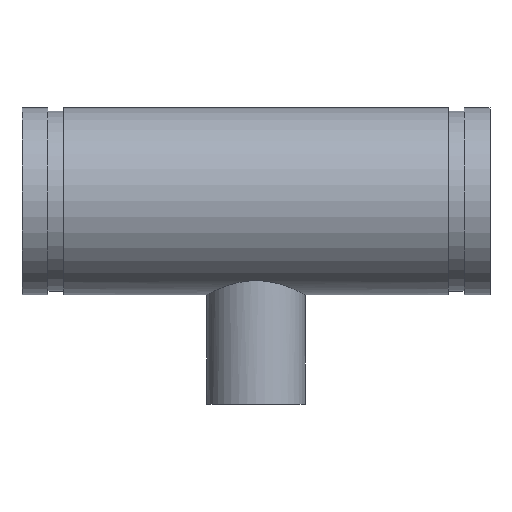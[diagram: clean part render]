
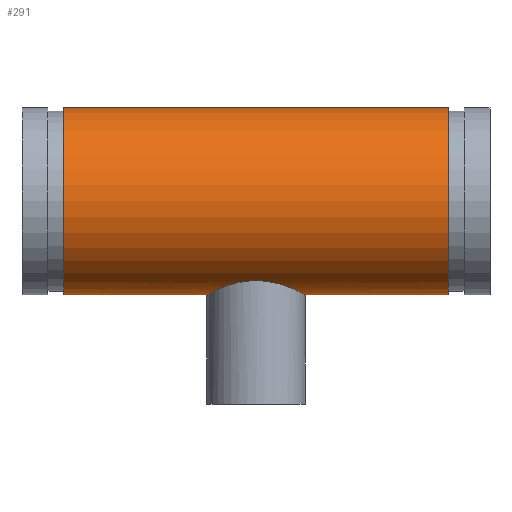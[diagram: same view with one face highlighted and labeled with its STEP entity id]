
A CAD part, top view. The second image highlights one B-rep face of the part: STEP entity #291.
In plain terms, the highlighted cylindrical face has radius 57.15 mm (diameter 114.3 mm), a full revolution.
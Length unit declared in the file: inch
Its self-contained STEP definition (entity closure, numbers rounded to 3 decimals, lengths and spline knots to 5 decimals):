
#45=B_SPLINE_CURVE_WITH_KNOTS('',3,(#511,#512,#513,#514,#515,#516,#517,
#518,#519,#520,#521,#522,#523,#524,#525,#526,#527,#528,#529,#530,#531,#532,
#533,#534,#535,#536,#537,#538,#539,#540,#541,#542,#543,#544,#545,#546,#547,
#548,#549,#550,#551,#552,#553,#554,#555,#556,#557,#558,#559,#560),
 .UNSPECIFIED.,.F.,.F.,(4,2,2,2,2,2,2,2,2,2,2,2,2,2,2,2,2,2,2,2,2,2,2,2,
4),(0.,0.58229,1.16457,1.74686,2.32915,
2.9094,3.48965,4.0699,4.65015,5.2304,
5.81064,6.39089,6.97114,7.55343,8.13572,
8.718,9.30029,9.88258,10.46486,11.04715,
11.62944,12.20969,12.78994,13.37019,13.95044),
 .UNSPECIFIED.);
#46=B_SPLINE_CURVE_WITH_KNOTS('',3,(#561,#562,#563,#564,#565,#566,#567,
#568,#569,#570,#571,#572,#573,#574,#575,#576,#577,#578),.UNSPECIFIED.,.F.,
 .F.,(4,2,2,2,2,2,2,2,4),(13.95044,14.53069,15.11094,
15.69119,16.27144,16.85372,17.43601,18.01829,
18.60058),.UNSPECIFIED.);
#51=LINE('',#508,#59);
#59=VECTOR('',#410,2.25);
#67=CYLINDRICAL_SURFACE('',#338,2.25);
#77=FACE_BOUND('',#108,.T.);
#88=FACE_OUTER_BOUND('',#107,.T.);
#107=EDGE_LOOP('',(#221,#222,#223,#224));
#108=EDGE_LOOP('',(#225,#226));
#121=CIRCLE('',#321,2.25);
#132=CIRCLE('',#337,2.25);
#141=VERTEX_POINT('',#476);
#152=VERTEX_POINT('',#505);
#153=VERTEX_POINT('',#509);
#154=VERTEX_POINT('',#510);
#165=EDGE_CURVE('',#141,#141,#121,.T.);
#178=EDGE_CURVE('',#152,#152,#132,.T.);
#179=EDGE_CURVE('',#152,#141,#51,.T.);
#180=EDGE_CURVE('',#153,#154,#45,.T.);
#181=EDGE_CURVE('',#154,#153,#46,.T.);
#221=ORIENTED_EDGE('',*,*,#178,.T.);
#222=ORIENTED_EDGE('',*,*,#179,.T.);
#223=ORIENTED_EDGE('',*,*,#165,.T.);
#224=ORIENTED_EDGE('',*,*,#179,.F.);
#225=ORIENTED_EDGE('',*,*,#180,.F.);
#226=ORIENTED_EDGE('',*,*,#181,.F.);
#291=ADVANCED_FACE('',(#88,#77),#67,.T.);
#321=AXIS2_PLACEMENT_3D('',#477,#372,#373);
#337=AXIS2_PLACEMENT_3D('',#506,#406,#407);
#338=AXIS2_PLACEMENT_3D('',#507,#408,#409);
#372=DIRECTION('center_axis',(-1.,0.,0.));
#373=DIRECTION('ref_axis',(0.,-1.,0.));
#406=DIRECTION('center_axis',(1.,0.,0.));
#407=DIRECTION('ref_axis',(0.,-1.,0.));
#408=DIRECTION('center_axis',(-1.,0.,0.));
#409=DIRECTION('ref_axis',(0.,-1.,0.));
#410=DIRECTION('',(1.,0.,0.));
#476=CARTESIAN_POINT('',(4.63,2.25,0.));
#477=CARTESIAN_POINT('Origin',(4.63,0.,0.));
#505=CARTESIAN_POINT('',(-4.63,2.25,0.));
#506=CARTESIAN_POINT('Origin',(-4.63,0.,0.));
#507=CARTESIAN_POINT('Origin',(5.63,0.,0.));
#508=CARTESIAN_POINT('',(5.63,2.25,0.));
#509=CARTESIAN_POINT('',(0.,-1.91111,-1.1875));
#510=CARTESIAN_POINT('',(-1.1875,-2.25,0.));
#511=CARTESIAN_POINT('Ctrl Pts',(0.,-1.91111,
-1.1875));
#512=CARTESIAN_POINT('Ctrl Pts',(0.07642,-1.91111,-1.1875));
#513=CARTESIAN_POINT('Ctrl Pts',(0.15478,-1.91583,-1.18001));
#514=CARTESIAN_POINT('Ctrl Pts',(0.3095,-1.93449,-1.14917));
#515=CARTESIAN_POINT('Ctrl Pts',(0.38586,-1.94839,-1.12583));
#516=CARTESIAN_POINT('Ctrl Pts',(0.5315,-1.98238,-1.06485));
#517=CARTESIAN_POINT('Ctrl Pts',(0.60092,-2.00244,-1.02715));
#518=CARTESIAN_POINT('Ctrl Pts',(0.72902,-2.04454,-0.94056));
#519=CARTESIAN_POINT('Ctrl Pts',(0.78772,-2.06654,-0.89166));
#520=CARTESIAN_POINT('Ctrl Pts',(0.89148,-2.10828,-0.7879));
#521=CARTESIAN_POINT('Ctrl Pts',(0.94035,-2.12958,-0.7293));
#522=CARTESIAN_POINT('Ctrl Pts',(1.02701,-2.16924,-0.60116));
#523=CARTESIAN_POINT('Ctrl Pts',(1.0648,-2.18757,-0.53161));
#524=CARTESIAN_POINT('Ctrl Pts',(1.1259,-2.21795,-0.38571));
#525=CARTESIAN_POINT('Ctrl Pts',(1.14925,-2.23001,-0.30921));
#526=CARTESIAN_POINT('Ctrl Pts',(1.18006,-2.24604,-0.15443));
#527=CARTESIAN_POINT('Ctrl Pts',(1.1875,-2.25,-0.07615));
#528=CARTESIAN_POINT('Ctrl Pts',(1.1875,-2.25,0.07615));
#529=CARTESIAN_POINT('Ctrl Pts',(1.18006,-2.24604,0.15443));
#530=CARTESIAN_POINT('Ctrl Pts',(1.14925,-2.23001,0.30921));
#531=CARTESIAN_POINT('Ctrl Pts',(1.1259,-2.21795,0.38571));
#532=CARTESIAN_POINT('Ctrl Pts',(1.0648,-2.18757,0.53161));
#533=CARTESIAN_POINT('Ctrl Pts',(1.02701,-2.16924,0.60116));
#534=CARTESIAN_POINT('Ctrl Pts',(0.94035,-2.12958,0.7293));
#535=CARTESIAN_POINT('Ctrl Pts',(0.89148,-2.10828,0.7879));
#536=CARTESIAN_POINT('Ctrl Pts',(0.78772,-2.06654,0.89166));
#537=CARTESIAN_POINT('Ctrl Pts',(0.72902,-2.04454,0.94056));
#538=CARTESIAN_POINT('Ctrl Pts',(0.60092,-2.00244,1.02715));
#539=CARTESIAN_POINT('Ctrl Pts',(0.5315,-1.98238,1.06485));
#540=CARTESIAN_POINT('Ctrl Pts',(0.38586,-1.94839,1.12583));
#541=CARTESIAN_POINT('Ctrl Pts',(0.3095,-1.93449,1.14917));
#542=CARTESIAN_POINT('Ctrl Pts',(0.15478,-1.91583,1.18001));
#543=CARTESIAN_POINT('Ctrl Pts',(0.07642,-1.91111,1.1875));
#544=CARTESIAN_POINT('Ctrl Pts',(-0.07642,-1.91111,
1.1875));
#545=CARTESIAN_POINT('Ctrl Pts',(-0.15478,-1.91583,1.18001));
#546=CARTESIAN_POINT('Ctrl Pts',(-0.3095,-1.93449,1.14917));
#547=CARTESIAN_POINT('Ctrl Pts',(-0.38586,-1.94839,1.12583));
#548=CARTESIAN_POINT('Ctrl Pts',(-0.5315,-1.98238,1.06485));
#549=CARTESIAN_POINT('Ctrl Pts',(-0.60092,-2.00244,1.02715));
#550=CARTESIAN_POINT('Ctrl Pts',(-0.72902,-2.04454,0.94056));
#551=CARTESIAN_POINT('Ctrl Pts',(-0.78772,-2.06654,0.89166));
#552=CARTESIAN_POINT('Ctrl Pts',(-0.89148,-2.10828,0.7879));
#553=CARTESIAN_POINT('Ctrl Pts',(-0.94035,-2.12958,0.7293));
#554=CARTESIAN_POINT('Ctrl Pts',(-1.02701,-2.16924,0.60116));
#555=CARTESIAN_POINT('Ctrl Pts',(-1.0648,-2.18757,0.53161));
#556=CARTESIAN_POINT('Ctrl Pts',(-1.1259,-2.21795,0.38571));
#557=CARTESIAN_POINT('Ctrl Pts',(-1.14925,-2.23001,0.30921));
#558=CARTESIAN_POINT('Ctrl Pts',(-1.18006,-2.24604,0.15443));
#559=CARTESIAN_POINT('Ctrl Pts',(-1.1875,-2.25,0.07615));
#560=CARTESIAN_POINT('Ctrl Pts',(-1.1875,-2.25,0.));
#561=CARTESIAN_POINT('Ctrl Pts',(-1.1875,-2.25,0.));
#562=CARTESIAN_POINT('Ctrl Pts',(-1.1875,-2.25,-0.07615));
#563=CARTESIAN_POINT('Ctrl Pts',(-1.18006,-2.24604,-0.15443));
#564=CARTESIAN_POINT('Ctrl Pts',(-1.14925,-2.23001,-0.30921));
#565=CARTESIAN_POINT('Ctrl Pts',(-1.1259,-2.21795,-0.38571));
#566=CARTESIAN_POINT('Ctrl Pts',(-1.0648,-2.18757,-0.53161));
#567=CARTESIAN_POINT('Ctrl Pts',(-1.02701,-2.16924,-0.60116));
#568=CARTESIAN_POINT('Ctrl Pts',(-0.94035,-2.12958,-0.7293));
#569=CARTESIAN_POINT('Ctrl Pts',(-0.89148,-2.10828,-0.7879));
#570=CARTESIAN_POINT('Ctrl Pts',(-0.78772,-2.06654,-0.89166));
#571=CARTESIAN_POINT('Ctrl Pts',(-0.72902,-2.04454,-0.94056));
#572=CARTESIAN_POINT('Ctrl Pts',(-0.60092,-2.00244,-1.02715));
#573=CARTESIAN_POINT('Ctrl Pts',(-0.5315,-1.98238,-1.06485));
#574=CARTESIAN_POINT('Ctrl Pts',(-0.38586,-1.94839,-1.12583));
#575=CARTESIAN_POINT('Ctrl Pts',(-0.3095,-1.93449,-1.14917));
#576=CARTESIAN_POINT('Ctrl Pts',(-0.15478,-1.91583,-1.18001));
#577=CARTESIAN_POINT('Ctrl Pts',(-0.07642,-1.91111,
-1.1875));
#578=CARTESIAN_POINT('Ctrl Pts',(0.,-1.91111,
-1.1875));
